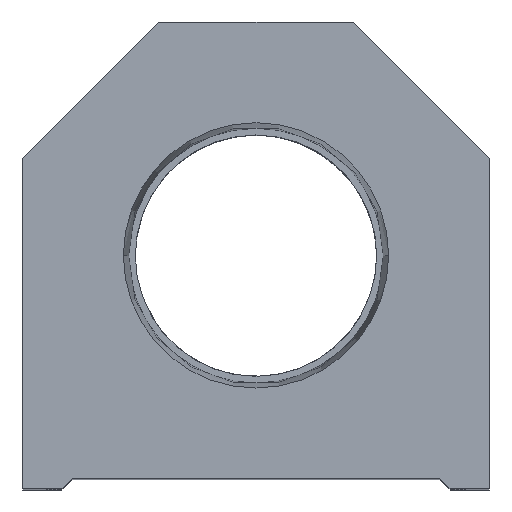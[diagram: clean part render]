
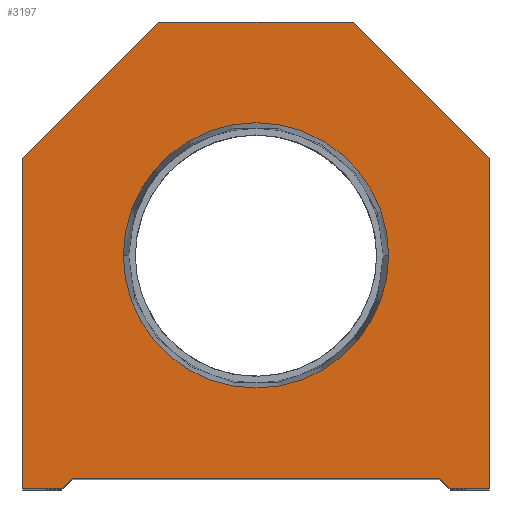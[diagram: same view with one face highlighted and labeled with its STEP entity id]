
A CAD part, top view. The second image highlights one B-rep face of the part: STEP entity #3197.
In plain terms, the highlighted planar face has unit normal (0, 0, 1).
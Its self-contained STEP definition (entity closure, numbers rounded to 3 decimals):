
#3 = DIRECTION ( 'NONE',  ( -0.707, 0.707, 0. ) ) ;
#11 = FACE_OUTER_BOUND ( 'NONE', #3546, .T. ) ;
#189 = CARTESIAN_POINT ( 'NONE',  ( 22.25, 0., 0. ) ) ;
#319 = VECTOR ( 'NONE', #9643, 1000. ) ;
#568 = VERTEX_POINT ( 'NONE', #11679 ) ;
#573 = CIRCLE ( 'NONE', #1956, 12.647 ) ;
#954 = VECTOR ( 'NONE', #13506, 1000. ) ;
#1040 = LINE ( 'NONE', #5048, #9439 ) ;
#1139 = CIRCLE ( 'NONE', #14859, 12.647 ) ;
#1385 = CARTESIAN_POINT ( 'NONE',  ( 18.5, 0., 0. ) ) ;
#1420 = VECTOR ( 'NONE', #12088, 1000. ) ;
#1741 = EDGE_CURVE ( 'NONE', #13491, #7436, #2558, .T. ) ;
#1870 = ORIENTED_EDGE ( 'NONE', *, *, #13781, .F. ) ;
#1956 = AXIS2_PLACEMENT_3D ( 'NONE', #15721, #11811, #8967 ) ;
#2182 = DIRECTION ( 'NONE',  ( 1., 0., 0. ) ) ;
#2283 = EDGE_CURVE ( 'NONE', #7436, #568, #15385, .T. ) ;
#2448 = CARTESIAN_POINT ( 'NONE',  ( -22.25, 31.5, 0. ) ) ;
#2558 = LINE ( 'NONE', #11730, #10805 ) ;
#2678 = LINE ( 'NONE', #3800, #15294 ) ;
#2794 = AXIS2_PLACEMENT_3D ( 'NONE', #11649, #10254, #3767 ) ;
#2890 = ORIENTED_EDGE ( 'NONE', *, *, #14472, .T. ) ;
#2935 = ORIENTED_EDGE ( 'NONE', *, *, #10545, .T. ) ;
#3164 = VERTEX_POINT ( 'NONE', #16348 ) ;
#3197 = ADVANCED_FACE ( 'NONE', ( #9061, #11 ), #5232, .T. ) ;
#3380 = VERTEX_POINT ( 'NONE', #11119 ) ;
#3466 = CARTESIAN_POINT ( 'NONE',  ( 17.5, 1., 0. ) ) ;
#3502 = LINE ( 'NONE', #5991, #11245 ) ;
#3546 = EDGE_LOOP ( 'NONE', ( #8539, #10800, #14639, #2890, #5709, #6134, #9479, #14824, #2935, #14192 ) ) ;
#3693 = CARTESIAN_POINT ( 'NONE',  ( 9.25, 44.5, 0. ) ) ;
#3730 = DIRECTION ( 'NONE',  ( 1., 0., 0. ) ) ;
#3767 = DIRECTION ( 'NONE',  ( 1., 0., 0. ) ) ;
#3800 = CARTESIAN_POINT ( 'NONE',  ( 17.5, 0., 0. ) ) ;
#4693 = VECTOR ( 'NONE', #6950, 1000. ) ;
#4789 = VERTEX_POINT ( 'NONE', #15638 ) ;
#4852 = VERTEX_POINT ( 'NONE', #1385 ) ;
#5048 = CARTESIAN_POINT ( 'NONE',  ( -9.25, 9.25, 0. ) ) ;
#5232 = PLANE ( 'NONE',  #2794 ) ;
#5270 = CARTESIAN_POINT ( 'NONE',  ( -17.5, 0., 0. ) ) ;
#5310 = EDGE_CURVE ( 'NONE', #9645, #6662, #1139, .T. ) ;
#5661 = EDGE_CURVE ( 'NONE', #3164, #13491, #13297, .T. ) ;
#5690 = EDGE_LOOP ( 'NONE', ( #16016, #1870 ) ) ;
#5709 = ORIENTED_EDGE ( 'NONE', *, *, #12252, .T. ) ;
#5991 = CARTESIAN_POINT ( 'NONE',  ( -17.5, 1., 0. ) ) ;
#6134 = ORIENTED_EDGE ( 'NONE', *, *, #5661, .T. ) ;
#6507 = EDGE_CURVE ( 'NONE', #3380, #9244, #3502, .T. ) ;
#6662 = VERTEX_POINT ( 'NONE', #13748 ) ;
#6950 = DIRECTION ( 'NONE',  ( 1., 0., 0. ) ) ;
#7349 = CARTESIAN_POINT ( 'NONE',  ( -18.5, 0., 0. ) ) ;
#7436 = VERTEX_POINT ( 'NONE', #13409 ) ;
#7503 = VECTOR ( 'NONE', #14250, 1000. ) ;
#8539 = ORIENTED_EDGE ( 'NONE', *, *, #14318, .T. ) ;
#8591 = CARTESIAN_POINT ( 'NONE',  ( 0., 22.25, 0. ) ) ;
#8680 = DIRECTION ( 'NONE',  ( 0., 0., 1. ) ) ;
#8967 = DIRECTION ( 'NONE',  ( 1., 0., 0. ) ) ;
#9031 = VERTEX_POINT ( 'NONE', #7349 ) ;
#9051 = EDGE_CURVE ( 'NONE', #13183, #4789, #10816, .T. ) ;
#9061 = FACE_BOUND ( 'NONE', #5690, .T. ) ;
#9244 = VERTEX_POINT ( 'NONE', #3466 ) ;
#9439 = VECTOR ( 'NONE', #14159, 1000. ) ;
#9479 = ORIENTED_EDGE ( 'NONE', *, *, #1741, .T. ) ;
#9643 = DIRECTION ( 'NONE',  ( 0.707, -0.707, 0. ) ) ;
#9645 = VERTEX_POINT ( 'NONE', #14775 ) ;
#10254 = DIRECTION ( 'NONE',  ( 0., 0., 1. ) ) ;
#10287 = EDGE_CURVE ( 'NONE', #9031, #3380, #1040, .T. ) ;
#10545 = EDGE_CURVE ( 'NONE', #568, #13183, #16919, .T. ) ;
#10800 = ORIENTED_EDGE ( 'NONE', *, *, #10287, .T. ) ;
#10805 = VECTOR ( 'NONE', #3, 1000. ) ;
#10816 = LINE ( 'NONE', #16115, #954 ) ;
#11025 = LINE ( 'NONE', #13372, #319 ) ;
#11119 = CARTESIAN_POINT ( 'NONE',  ( -17.5, 1., 0. ) ) ;
#11245 = VECTOR ( 'NONE', #14066, 1000. ) ;
#11649 = CARTESIAN_POINT ( 'NONE',  ( 0., 0., 0. ) ) ;
#11679 = CARTESIAN_POINT ( 'NONE',  ( -9.25, 44.5, 0. ) ) ;
#11730 = CARTESIAN_POINT ( 'NONE',  ( 22.25, 31.5, 0. ) ) ;
#11811 = DIRECTION ( 'NONE',  ( 0., 0., 1. ) ) ;
#12088 = DIRECTION ( 'NONE',  ( 0., 1., 0. ) ) ;
#12181 = CARTESIAN_POINT ( 'NONE',  ( -22.25, 31.5, 0. ) ) ;
#12252 = EDGE_CURVE ( 'NONE', #4852, #3164, #2678, .T. ) ;
#12848 = DIRECTION ( 'NONE',  ( -0.707, -0.707, 0. ) ) ;
#13183 = VERTEX_POINT ( 'NONE', #12181 ) ;
#13297 = LINE ( 'NONE', #189, #1420 ) ;
#13372 = CARTESIAN_POINT ( 'NONE',  ( 9.25, 9.25, 0. ) ) ;
#13409 = CARTESIAN_POINT ( 'NONE',  ( 9.25, 44.5, 0. ) ) ;
#13491 = VERTEX_POINT ( 'NONE', #15898 ) ;
#13506 = DIRECTION ( 'NONE',  ( 0., -1., 0. ) ) ;
#13748 = CARTESIAN_POINT ( 'NONE',  ( -12.647, 22.25, 0. ) ) ;
#13781 = EDGE_CURVE ( 'NONE', #6662, #9645, #573, .T. ) ;
#14066 = DIRECTION ( 'NONE',  ( 1., 0., 0. ) ) ;
#14159 = DIRECTION ( 'NONE',  ( 0.707, 0.707, 0. ) ) ;
#14192 = ORIENTED_EDGE ( 'NONE', *, *, #9051, .T. ) ;
#14250 = DIRECTION ( 'NONE',  ( -1., 0., 0. ) ) ;
#14318 = EDGE_CURVE ( 'NONE', #4789, #9031, #15860, .T. ) ;
#14472 = EDGE_CURVE ( 'NONE', #9244, #4852, #11025, .T. ) ;
#14639 = ORIENTED_EDGE ( 'NONE', *, *, #6507, .T. ) ;
#14775 = CARTESIAN_POINT ( 'NONE',  ( 12.647, 22.25, 0. ) ) ;
#14824 = ORIENTED_EDGE ( 'NONE', *, *, #2283, .T. ) ;
#14859 = AXIS2_PLACEMENT_3D ( 'NONE', #8591, #8680, #2182 ) ;
#15294 = VECTOR ( 'NONE', #3730, 1000. ) ;
#15385 = LINE ( 'NONE', #3693, #7503 ) ;
#15490 = VECTOR ( 'NONE', #12848, 1000. ) ;
#15638 = CARTESIAN_POINT ( 'NONE',  ( -22.25, 0., 0. ) ) ;
#15721 = CARTESIAN_POINT ( 'NONE',  ( 0., 22.25, 0. ) ) ;
#15860 = LINE ( 'NONE', #5270, #4693 ) ;
#15898 = CARTESIAN_POINT ( 'NONE',  ( 22.25, 31.5, 0. ) ) ;
#16016 = ORIENTED_EDGE ( 'NONE', *, *, #5310, .F. ) ;
#16115 = CARTESIAN_POINT ( 'NONE',  ( -22.25, 0., 0. ) ) ;
#16348 = CARTESIAN_POINT ( 'NONE',  ( 22.25, 0., 0. ) ) ;
#16919 = LINE ( 'NONE', #2448, #15490 ) ;
